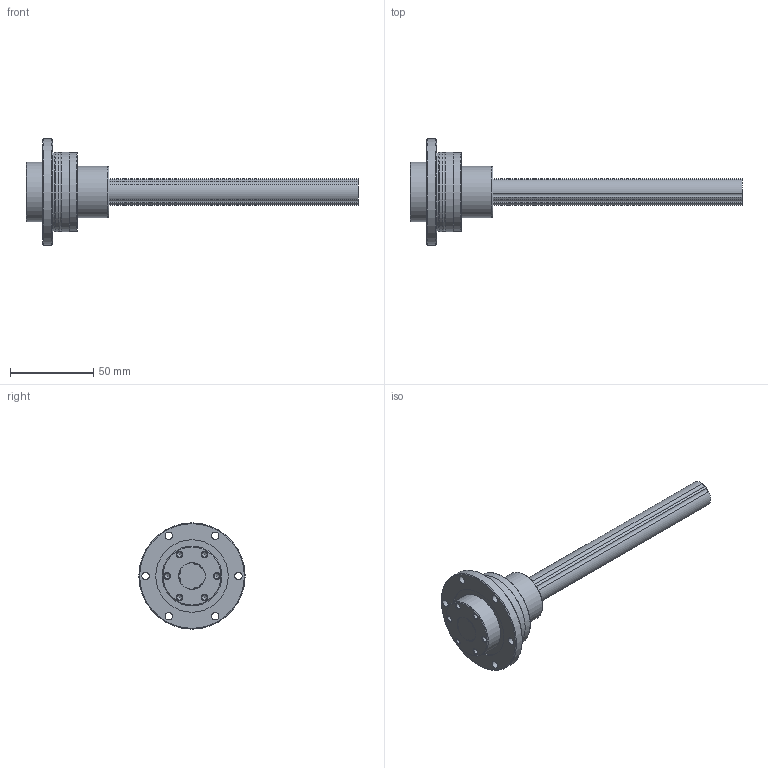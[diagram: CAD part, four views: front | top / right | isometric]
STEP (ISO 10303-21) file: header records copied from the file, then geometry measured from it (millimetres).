
FILE_DESCRIPTION(/* description */ ('STEP AP214'),/* implementation_level */ '2;1');
FILE_NAME(/* name */ 'LTR16A+200L(0_0)',/* time_stamp */ '2024-09-04T12:30:58+02:00',/* author */ ('License CC BY-ND 4.0'),/* organization */ ('CADENAS'),/* preprocessor_version */ 'ST-DEVELOPER v19.3',/* originating_system */ 'PARTsolutions',/* authorisation */ ' ');
FILE_SCHEMA (('AUTOMOTIVE_DESIGN {1 0 10303 214 3 1 1}'));
Length unit declared in the file: millimetre
Products named in the file (3): LTR16A+200L(0,0); LTR 16A200 LTRA Shaft; LTR 16A LTRA ACyl
Assembly tree (3 placements, depth 2):
  LTR16A+200L(0,0)
    LTR 16A200 LTRA Shaft
    LTR 16A LTRA ACyl  x2
Bounding box: 200 x 64 x 64 mm (x, y, z)
Volume: 155227.8 mm3; surface area: 43671.1 mm2
Topology: 3 solids, 3 shells, 122 faces, 286 edges, 184 vertices
Faces by surface type: cylinder 60, cone 32, plane 20, torus 10
Full cylindrical faces by diameter (mm): 1.5 x2, 3.242 x12, 4.5 x12, 16 x2, 31 x2, 36 x4, 43.2 x2, 43.636 x2, 47.4 x2, 47.5 x2, 48 x4, 64 x2
Entity records: 1730 total; most frequent: DIRECTION 322, CARTESIAN_POINT 272, ORIENTED_EDGE 192, AXIS2_PLACEMENT_3D 155, FACE_BOUND 140, EDGE_LOOP 134, EDGE_CURVE 96, VERTEX_POINT 90
